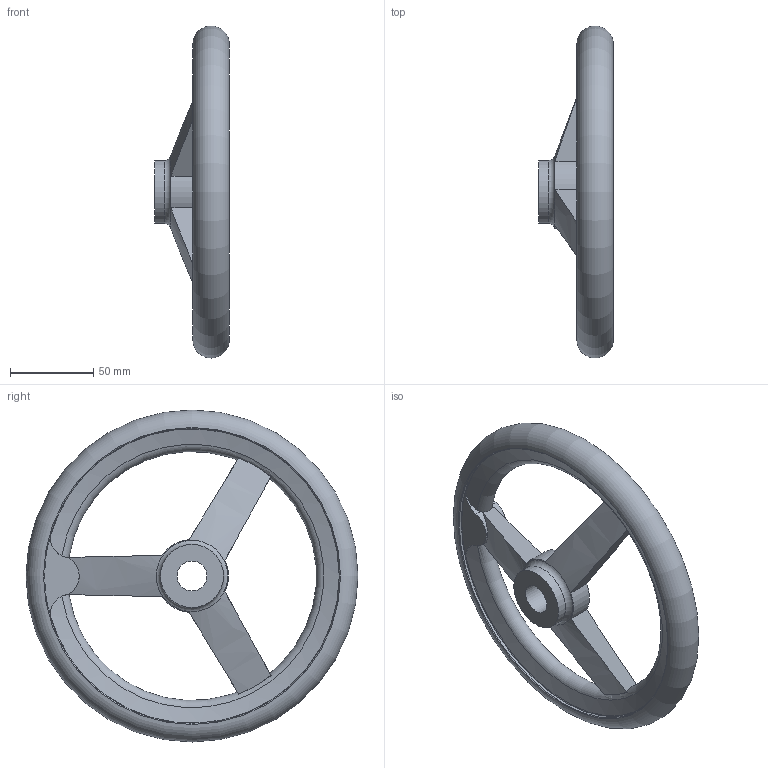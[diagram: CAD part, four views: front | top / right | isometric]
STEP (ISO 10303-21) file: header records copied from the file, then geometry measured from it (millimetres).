
FILE_DESCRIPTION( ( 'STEP AP203' ), '1' );
FILE_NAME( 'C:/Temp/Ganter_Step_05_03_2020/data/1_3/din_950/din_950_b/din_950_b_a/Handwheel DIN 950-GG-200-B18-A.stp', '2020-03-05T10:29:21', ( 'License CC BY-ND 4.0' ), ( 'CADENAS' ), ' ', 'PARTsolutions', ' ' );
FILE_SCHEMA( ( 'CONFIG_CONTROL_DESIGN' ) );
Length unit declared in the file: millimetre
Products named in the file (1): _Handwheel DIN 950-GG-200-B18-A
Bounding box: 45 x 200 x 200 mm (x, y, z)
Volume: 275983.7 mm3; surface area: 58996.4 mm2
Topology: 1 solids, 1 shells, 42 faces, 122 edges, 78 vertices
Faces by surface type: cylinder 14, torus 14, plane 10, cone 4
Full cylindrical faces by diameter (mm): 18 x1, 38 x2, 178 x2
Entity records: 1747 total; most frequent: CARTESIAN_POINT 719, ORIENTED_EDGE 208, DIRECTION 184, EDGE_CURVE 104, AXIS2_PLACEMENT_3D 85, VERTEX_POINT 75, EDGE_LOOP 60, FACE_OUTER_BOUND 54
